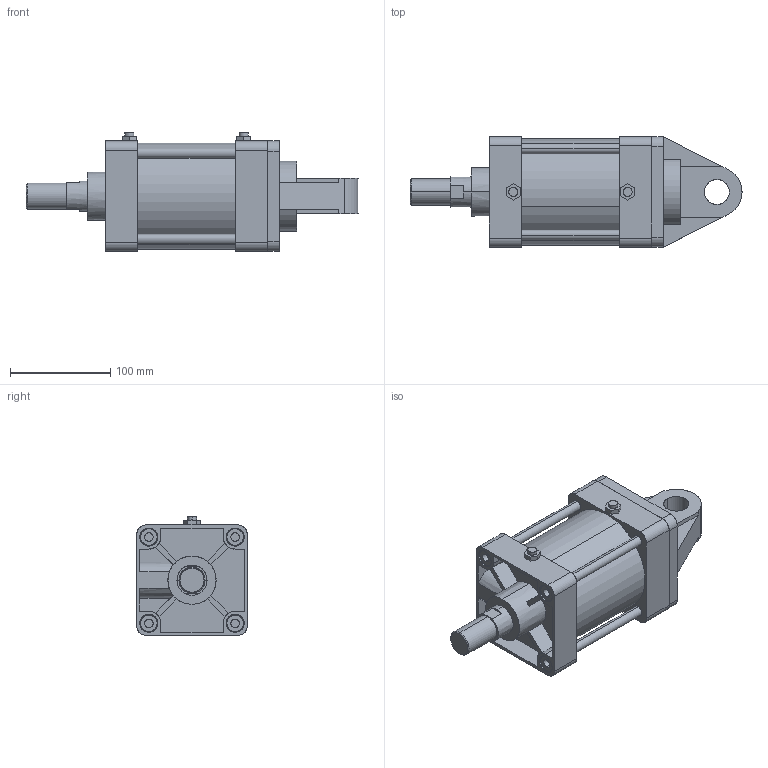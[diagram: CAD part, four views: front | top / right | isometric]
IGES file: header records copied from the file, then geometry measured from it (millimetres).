
Start section: SolidWorks IGES file using analytic representation for surfaces
Global section: file name: C:\Users\Toshiba\Desktop\KG2-100-50-C.IGS; native system: SolidWorks 2014; preprocessor: SolidWorks 2014; author: Toshiba; date: 160401.162251; units: millimetre
Bounding box: 331 x 110 x 118.3 mm (x, y, z)
Surface area: 252094.2 mm2 (no closed solid volume)
Topology: 0 solids, 0 shells, 344 faces, 5367 edges, 5363 vertices
Faces by surface type: bspline 185, revolution 159
